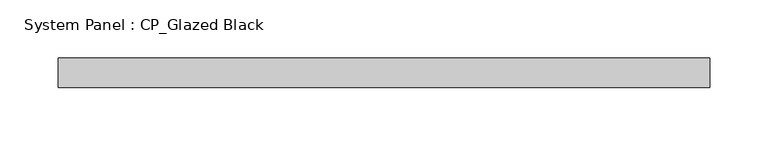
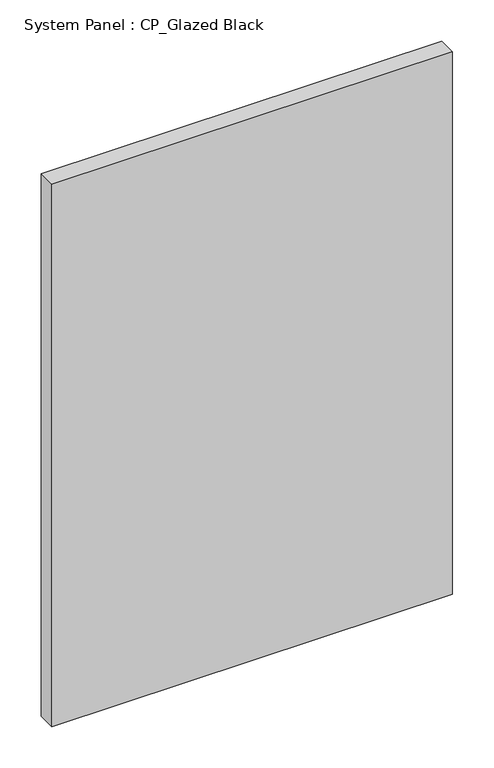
"""IFC4 building model written with IfcOpenShell, lengths in millimetres: plate geometry, System Panel : CP_Glazed Black."""

from ifc_helpers import new_model, si_unit, origin, origin_with_axes, place, context, project, spatial, polyline, outline, extrude, source, transform, mapped, element, save


def system_panel_cp_glazed_black_a50434cf(model_context):
    return source(origin(), model_context, "Body", "SweptSolid", [
        extrude(outline(polyline([(279.4, 19.05), (-279.4, 19.05), (-279.4, 44.45), (279.4, 44.45), (279.4, 19.05)])), origin_with_axes(), (0.0, 0.0, 1.0), 800.1),
    ])


if __name__ == "__main__":
    model = new_model("IFC4")
    model_context = context("Model", 3, world=origin())
    ifc_project = project(units=[si_unit("LENGTHUNIT", "METRE", prefix="MILLI")], contexts=[model_context])
    site = spatial("IfcSite", under=ifc_project)
    building = spatial("IfcBuilding", under=site)
    placement = place(None, origin())
    system_panel_cp_glazed_black_shape = system_panel_cp_glazed_black_a50434cf(model_context)
    element("IfcPlate", 1, ObjectType="System Panel : CP_Glazed Black", at=placement, inside=building, context=model_context, shape_type="MappedRepresentation", body=[
        mapped(system_panel_cp_glazed_black_shape, transform((0.0, 0.0, 0.0), x_axis=(1.0, 0.0, 0.0), y_axis=(0.0, 1.0, 0.0), z_axis=(0.0, 0.0, 1.0))),
    ])
    save(model, "model.ifc")
